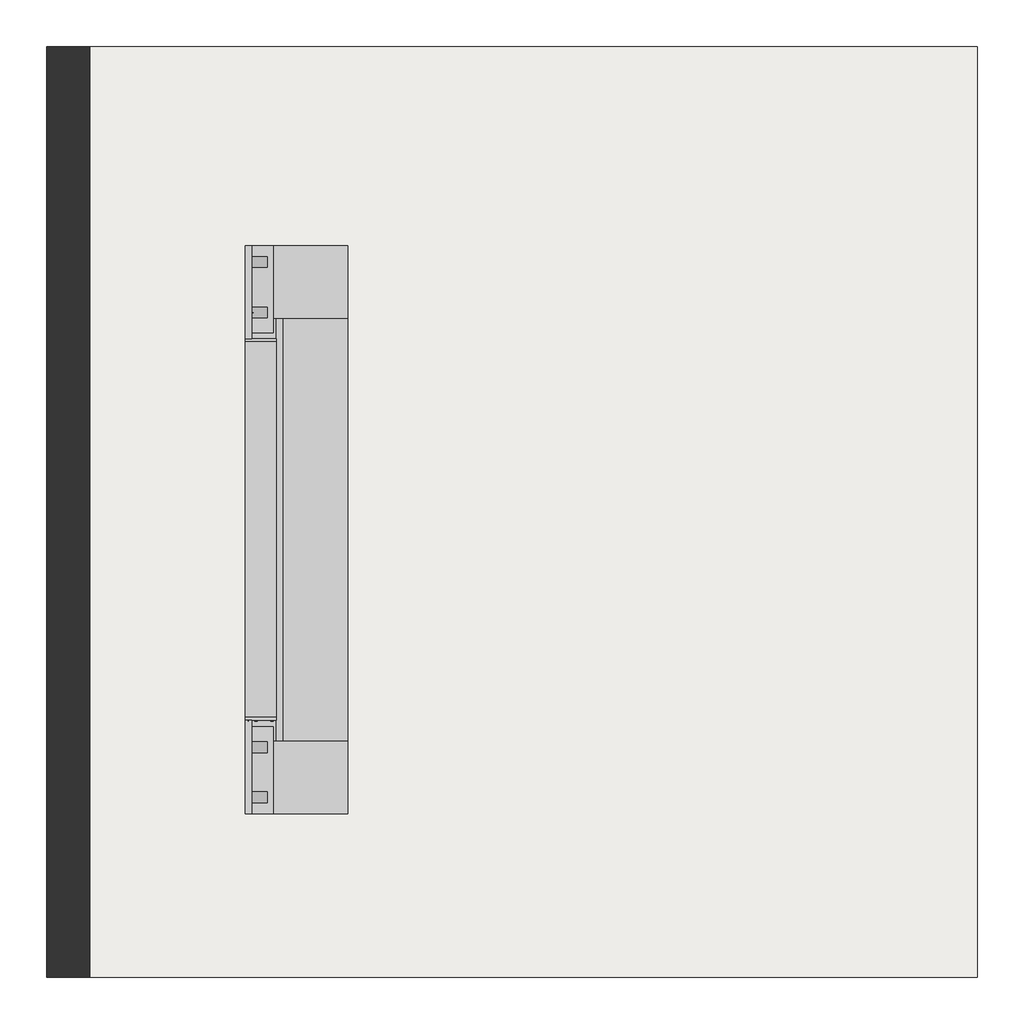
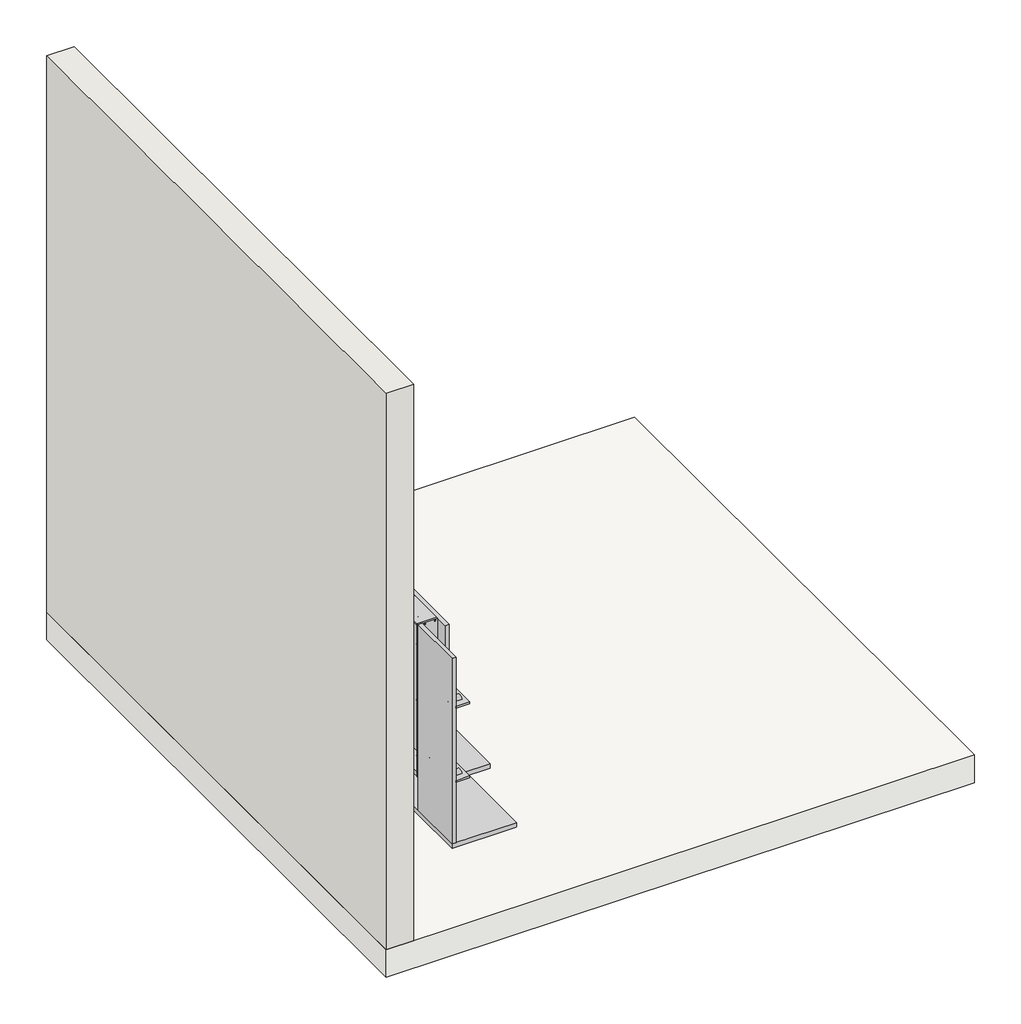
# One storey: 64 furniture elements, 1 slab, 1 wall.
"""IFC4 building model written with IfcOpenShell, lengths in millimetres."""

from ifc_helpers import new_model, si_unit, frame, origin, origin_with_axes, place, context, project, spatial, polyline, outline, extrude, transform, mapped, element, save
from components import furniture_a2fd005c, furniture_4c861502, furniture_2afee2cb, furniture_614d171c, furniture_25fd1c1d, furniture_03cabe77, furniture_2331d2df, furniture_8cdb3bce, furniture_fed28840, furniture_4a52a474, furniture_ae89cad7, furniture_c7928b1a, furniture_e5c32ea2, furniture_202a0ecc, furniture_795810f4, furniture_3a2688c3, furniture_bcf3ffac, furniture_26f772b4, furniture_c9f555ce, furniture_09c1f700

model = new_model("IFC4")

# Units and contexts
model_context = context("Model", 3, world=origin())
ifc_project = project(units=[si_unit("LENGTHUNIT", "METRE", prefix="MILLI")], contexts=[model_context])

# Site, building, storey
site = spatial("IfcSite", under=ifc_project)
building = spatial("IfcBuilding", under=site)
storey = spatial("IfcBuildingStorey", under=building, Name="Nível 1", Elevation=0.0)

# Furniture
placement = place(None, origin())
furniture_shape = furniture_a2fd005c(model_context)
element("IfcFurniture", 1, ObjectType="Apoio Lateral do Painel de TV : Apoio Lateral do Painel de TV", at=placement, inside=storey, context=model_context, shape_type="MappedRepresentation", body=[
    mapped(furniture_shape, transform((-4688.0330417, 160.8617628, 25.0), x_axis=(0.0, -1.0, 0.0), y_axis=(1.0, 0.0, 0.0), z_axis=(0.0, 0.0, 1.0))),
])
furniture_2_shape = furniture_4c861502(model_context)
element("IfcFurniture", 2, ObjectType="Base Inferior do Painel de TV : Base Inferior do Painel de TV", at=placement, inside=storey, context=model_context, shape_type="MappedRepresentation", body=[
    mapped(furniture_2_shape, transform((-4688.0330417, 1690.8617628, 0.0), x_axis=(0.0, -1.0, 0.0), y_axis=(1.0, 0.0, 0.0), z_axis=(0.0, 0.0, 1.0))),
])
furniture_3_shape = furniture_2afee2cb(model_context)
element("IfcFurniture", 3, ObjectType="Base Superior do Painel de TV : Base Superior do Painel de TV", at=placement, inside=storey, context=model_context, shape_type="MappedRepresentation", body=[
    mapped(furniture_3_shape, transform((-4358.0330417, 95.8617628, 175.0), x_axis=(0.0, 1.0, 0.0), y_axis=(-1.0, 0.0, 0.0), z_axis=(0.0, 0.0, 1.0))),
])
furniture_4_shape = furniture_614d171c(model_context)
element("IfcFurniture", 4, ObjectType="Divisoria Inferior do Painel de TV : Divisoria Inferior do Painel de TV", at=placement, inside=storey, context=model_context, shape_type="MappedRepresentation", body=[
    mapped(furniture_4_shape, transform((-4358.0330417, 765.8617628, 25.0), x_axis=(0.0, 1.0, 0.0), y_axis=(-1.0, 0.0, 0.0), z_axis=(0.0, 0.0, 1.0))),
])
furniture_5_shape = furniture_25fd1c1d(model_context)
element("IfcFurniture", 5, ObjectType="Fechamento Lateral do Painel de TV : Fechamento Lateral do Painel de TV", at=placement, inside=storey, context=model_context, shape_type="MappedRepresentation", body=[
    mapped(furniture_5_shape, transform((-4688.0330417, 1390.8617628, 200.0), x_axis=(0.0, -1.0, 0.0), y_axis=(1.0, 0.0, 0.0), z_axis=(0.0, 0.0, 1.0))),
])
furniture_6_shape = furniture_03cabe77(model_context)
element("IfcFurniture", 6, ObjectType="Fechamento Superior do Painel de TV : Fechamento Superior do Painel de TV", at=placement, inside=storey, context=model_context, shape_type="MappedRepresentation", body=[
    mapped(furniture_6_shape, transform((-4588.0330417, 170.8617628, 1025.0), x_axis=(0.0, 1.0, 0.0), y_axis=(-1.0, 0.0, 0.0), z_axis=(0.0, 0.0, 1.0))),
])
furniture_7_shape = furniture_2331d2df(model_context)
element("IfcFurniture", 7, ObjectType="Painel de Suporte da TV : Painel de Suporte da TV", at=placement, inside=storey, context=model_context, shape_type="MappedRepresentation", body=[
    mapped(furniture_7_shape, transform((-4588.0330417, 1455.8617628, 200.0), x_axis=(0.0, -1.0, 0.0), y_axis=(1.0, 0.0, 0.0), z_axis=(0.0, 0.0, 1.0))),
])
furniture_8_shape = furniture_8cdb3bce(model_context)
element("IfcFurniture", 8, ObjectType="Parafuso de Madeira 12mm x 3mm : Parafuso de Madeira 12mm x 3mm", at=placement, inside=storey, context=model_context, shape_type="MappedRepresentation", body=[
    mapped(furniture_8_shape, transform((-4678.0330417, 1637.9861422, 355.0), x_axis=(1.0, 0.0, 0.0), y_axis=(0.0, 1.0, 0.0), z_axis=(0.0, 0.0, 1.0))),
])
element("IfcFurniture", 9, ObjectType="Parafuso de Madeira 12mm x 3mm : Parafuso de Madeira 12mm x 3mm", at=placement, inside=storey, context=model_context, shape_type="MappedRepresentation", body=[
    mapped(furniture_8_shape, transform((-4678.0330417, 1475.8748415, 355.0), x_axis=(1.0, 0.0, 0.0), y_axis=(0.0, 1.0, 0.0), z_axis=(0.0, 0.0, 1.0))),
])
element("IfcFurniture", 10, ObjectType="Parafuso de Madeira 12mm x 3mm : Parafuso de Madeira 12mm x 3mm", at=placement, inside=storey, context=model_context, shape_type="MappedRepresentation", body=[
    mapped(furniture_8_shape, transform((-4678.0330417, 1637.9861422, 755.0), x_axis=(1.0, 0.0, 0.0), y_axis=(0.0, 1.0, 0.0), z_axis=(0.0, 0.0, 1.0))),
])
element("IfcFurniture", 11, ObjectType="Parafuso de Madeira 12mm x 3mm : Parafuso de Madeira 12mm x 3mm", at=placement, inside=storey, context=model_context, shape_type="MappedRepresentation", body=[
    mapped(furniture_8_shape, transform((-4678.0330417, 1475.8748415, 755.0), x_axis=(1.0, 0.0, 0.0), y_axis=(0.0, 1.0, 0.0), z_axis=(0.0, 0.0, 1.0))),
])
furniture_9_shape = furniture_fed28840(model_context)
element("IfcFurniture", 12, ObjectType="Parafuso de Madeira 30mm x 3mm : Parafuso de Madeira 30mm x 3mm", at=placement, inside=storey, context=model_context, shape_type="MappedRepresentation", body=[
    mapped(furniture_9_shape, transform((-4678.0330417, 190.8617628, 600.0), x_axis=(0.0, -1.0, 0.0), y_axis=(1.0, 0.0, 0.0), z_axis=(0.0, 0.0, 1.0))),
])
element("IfcFurniture", 13, ObjectType="Parafuso de Madeira 30mm x 3mm : Parafuso de Madeira 30mm x 3mm", at=placement, inside=storey, context=model_context, shape_type="MappedRepresentation", body=[
    mapped(furniture_9_shape, transform((-4678.0330417, 190.8617628, 300.0), x_axis=(0.0, -1.0, 0.0), y_axis=(1.0, 0.0, 0.0), z_axis=(0.0, 0.0, 1.0))),
])
element("IfcFurniture", 14, ObjectType="Parafuso de Madeira 30mm x 3mm : Parafuso de Madeira 30mm x 3mm", at=placement, inside=storey, context=model_context, shape_type="MappedRepresentation", body=[
    mapped(furniture_9_shape, transform((-4678.0330417, 1360.8617628, 600.0), x_axis=(0.0, 1.0, 0.0), y_axis=(-1.0, 0.0, 0.0), z_axis=(0.0, 0.0, 1.0))),
])
element("IfcFurniture", 15, ObjectType="Parafuso de Madeira 30mm x 3mm : Parafuso de Madeira 30mm x 3mm", at=placement, inside=storey, context=model_context, shape_type="MappedRepresentation", body=[
    mapped(furniture_9_shape, transform((-4678.0330417, 1360.8617628, 300.0), x_axis=(0.0, 1.0, 0.0), y_axis=(-1.0, 0.0, 0.0), z_axis=(0.0, 0.0, 1.0))),
])
element("IfcFurniture", 16, ObjectType="Parafuso de Madeira 30mm x 3mm : Parafuso de Madeira 30mm x 3mm", at=placement, inside=storey, context=model_context, shape_type="MappedRepresentation", body=[
    mapped(furniture_9_shape, transform((-4678.0330417, 190.8617628, 900.0), x_axis=(0.0, -1.0, 0.0), y_axis=(1.0, 0.0, 0.0), z_axis=(0.0, 0.0, 1.0))),
])
element("IfcFurniture", 17, ObjectType="Parafuso de Madeira 30mm x 3mm : Parafuso de Madeira 30mm x 3mm", at=placement, inside=storey, context=model_context, shape_type="MappedRepresentation", body=[
    mapped(furniture_9_shape, transform((-4678.0330417, 1360.8617628, 900.0), x_axis=(0.0, 1.0, 0.0), y_axis=(-1.0, 0.0, 0.0), z_axis=(0.0, 0.0, 1.0))),
])
furniture_10_shape = furniture_4a52a474(model_context)
element("IfcFurniture", 18, ObjectType="Prateleira de Vidro 10mm : Prateleira de Vidro", at=placement, inside=storey, context=model_context, shape_type="MappedRepresentation", body=[
    mapped(furniture_10_shape, transform((-4668.0330417, 140.8617628, 350.0), x_axis=(0.0, -1.0, 0.0), y_axis=(1.0, 0.0, 0.0), z_axis=(0.0, 0.0, 1.0))),
])
element("IfcFurniture", 19, ObjectType="Prateleira de Vidro 10mm : Prateleira de Vidro", at=placement, inside=storey, context=model_context, shape_type="MappedRepresentation", body=[
    mapped(furniture_10_shape, transform((-4668.0330417, 140.8617628, 750.0), x_axis=(0.0, -1.0, 0.0), y_axis=(1.0, 0.0, 0.0), z_axis=(0.0, 0.0, 1.0))),
])
furniture_11_shape = furniture_ae89cad7(model_context)
element("IfcFurniture", 20, ObjectType="Suporte Prateleira de Vidro : Suporte Prateleira de Vidro", at=placement, inside=storey, context=model_context, shape_type="MappedRepresentation", body=[
    mapped(furniture_11_shape, transform((-4668.0330417, -66.249538, 350.0), x_axis=(0.0, -1.0, 0.0), y_axis=(1.0, 0.0, 0.0), z_axis=(0.0, 0.0, 1.0))),
])
element("IfcFurniture", 21, ObjectType="Suporte Prateleira de Vidro : Suporte Prateleira de Vidro", at=placement, inside=storey, context=model_context, shape_type="MappedRepresentation", body=[
    mapped(furniture_11_shape, transform((-4668.0330417, 95.8617628, 350.0), x_axis=(0.0, -1.0, 0.0), y_axis=(1.0, 0.0, 0.0), z_axis=(0.0, 0.0, 1.0))),
])
element("IfcFurniture", 22, ObjectType="Suporte Prateleira de Vidro : Suporte Prateleira de Vidro", at=placement, inside=storey, context=model_context, shape_type="MappedRepresentation", body=[
    mapped(furniture_11_shape, transform((-4668.0330417, -66.249538, 750.0), x_axis=(0.0, -1.0, 0.0), y_axis=(1.0, 0.0, 0.0), z_axis=(0.0, 0.0, 1.0))),
])
element("IfcFurniture", 23, ObjectType="Suporte Prateleira de Vidro : Suporte Prateleira de Vidro", at=placement, inside=storey, context=model_context, shape_type="MappedRepresentation", body=[
    mapped(furniture_11_shape, transform((-4668.0330417, 95.8617628, 750.0), x_axis=(0.0, -1.0, 0.0), y_axis=(1.0, 0.0, 0.0), z_axis=(0.0, 0.0, 1.0))),
])
furniture_12_shape = furniture_c7928b1a(model_context)
element("IfcFurniture", 24, ObjectType="Tampo Inferior do Painel de TV : Tampo Inferior do Painel de TV", at=placement, inside=storey, context=model_context, shape_type="MappedRepresentation", body=[
    mapped(furniture_12_shape, transform((-4648.0330417, 475.8617628, 25.0), x_axis=(0.0, 1.0, 0.0), y_axis=(-1.0, 0.0, 0.0), z_axis=(0.0, 0.0, 1.0))),
])
furniture_13_shape = furniture_e5c32ea2(model_context)
element("IfcFurniture", 25, ObjectType="Suporte Prateleira de Vidro : Suporte Prateleira de Vidro", at=placement, inside=storey, context=model_context, shape_type="MappedRepresentation", body=[
    mapped(furniture_13_shape, transform((-4668.0330417, 1617.9730635, 350.0), x_axis=(0.0, 1.0, 0.0), y_axis=(-1.0, 0.0, 0.0), z_axis=(0.0, 0.0, 1.0))),
])
element("IfcFurniture", 26, ObjectType="Suporte Prateleira de Vidro : Suporte Prateleira de Vidro", at=placement, inside=storey, context=model_context, shape_type="MappedRepresentation", body=[
    mapped(furniture_13_shape, transform((-4668.0330417, 1455.8617628, 350.0), x_axis=(0.0, 1.0, 0.0), y_axis=(-1.0, 0.0, 0.0), z_axis=(0.0, 0.0, 1.0))),
])
element("IfcFurniture", 27, ObjectType="Suporte Prateleira de Vidro : Suporte Prateleira de Vidro", at=placement, inside=storey, context=model_context, shape_type="MappedRepresentation", body=[
    mapped(furniture_13_shape, transform((-4668.0330417, 1617.9730635, 750.0), x_axis=(0.0, 1.0, 0.0), y_axis=(-1.0, 0.0, 0.0), z_axis=(0.0, 0.0, 1.0))),
])
element("IfcFurniture", 28, ObjectType="Suporte Prateleira de Vidro : Suporte Prateleira de Vidro", at=placement, inside=storey, context=model_context, shape_type="MappedRepresentation", body=[
    mapped(furniture_13_shape, transform((-4668.0330417, 1455.8617628, 750.0), x_axis=(0.0, 1.0, 0.0), y_axis=(-1.0, 0.0, 0.0), z_axis=(0.0, 0.0, 1.0))),
])
furniture_14_shape = furniture_202a0ecc(model_context)
element("IfcFurniture", 29, ObjectType="Parafuso de Madeira 12mm x 3mm : Parafuso de Madeira 12mm x 3mm", at=placement, inside=storey, context=model_context, shape_type="MappedRepresentation", body=[
    mapped(furniture_14_shape, transform((-4678.0330417, -86.2626167, 355.0), x_axis=(1.0, 0.0, 0.0), y_axis=(0.0, 1.0, 0.0), z_axis=(0.0, 0.0, 1.0))),
])
element("IfcFurniture", 30, ObjectType="Parafuso de Madeira 12mm x 3mm : Parafuso de Madeira 12mm x 3mm", at=placement, inside=storey, context=model_context, shape_type="MappedRepresentation", body=[
    mapped(furniture_14_shape, transform((-4678.0330417, 75.848684, 355.0), x_axis=(1.0, 0.0, 0.0), y_axis=(0.0, 1.0, 0.0), z_axis=(0.0, 0.0, 1.0))),
])
element("IfcFurniture", 31, ObjectType="Parafuso de Madeira 12mm x 3mm : Parafuso de Madeira 12mm x 3mm", at=placement, inside=storey, context=model_context, shape_type="MappedRepresentation", body=[
    mapped(furniture_14_shape, transform((-4678.0330417, -86.2626167, 755.0), x_axis=(1.0, 0.0, 0.0), y_axis=(0.0, 1.0, 0.0), z_axis=(0.0, 0.0, 1.0))),
])
element("IfcFurniture", 32, ObjectType="Parafuso de Madeira 12mm x 3mm : Parafuso de Madeira 12mm x 3mm", at=placement, inside=storey, context=model_context, shape_type="MappedRepresentation", body=[
    mapped(furniture_14_shape, transform((-4678.0330417, 75.848684, 755.0), x_axis=(1.0, 0.0, 0.0), y_axis=(0.0, 1.0, 0.0), z_axis=(0.0, 0.0, 1.0))),
])
furniture_15_shape = furniture_795810f4(model_context)
element("IfcFurniture", 33, ObjectType="Parafuso de Madeira 60mm x 3mm : Parafuso de Madeira 60mm x 3mm", at=placement, inside=storey, context=model_context, shape_type="MappedRepresentation", body=[
    mapped(furniture_15_shape, transform((-4368.5500171, 775.8617628, 0.0), x_axis=(1.0, 0.0, 0.0), y_axis=(0.0, 1.0, 0.0), z_axis=(0.0, 0.0, 1.0))),
])
element("IfcFurniture", 34, ObjectType="Parafuso de Madeira 60mm x 3mm : Parafuso de Madeira 60mm x 3mm", at=placement, inside=storey, context=model_context, shape_type="MappedRepresentation", body=[
    mapped(furniture_15_shape, transform((-4578.0330417, 1442.389608, 172.0), x_axis=(1.0, 0.0, 0.0), y_axis=(0.0, 1.0, 0.0), z_axis=(0.0, 0.0, 1.0))),
])
element("IfcFurniture", 35, ObjectType="Parafuso de Madeira 60mm x 3mm : Parafuso de Madeira 60mm x 3mm", at=placement, inside=storey, context=model_context, shape_type="MappedRepresentation", body=[
    mapped(furniture_15_shape, transform((-4658.0330417, 1019.3360446, 0.0), x_axis=(1.0, 0.0, 0.0), y_axis=(0.0, 1.0, 0.0), z_axis=(0.0, 0.0, 1.0))),
])
element("IfcFurniture", 36, ObjectType="Parafuso de Madeira 60mm x 3mm : Parafuso de Madeira 60mm x 3mm", at=placement, inside=storey, context=model_context, shape_type="MappedRepresentation", body=[
    mapped(furniture_15_shape, transform((-4678.0330417, 1667.099379, 0.0), x_axis=(1.0, 0.0, 0.0), y_axis=(0.0, 1.0, 0.0), z_axis=(0.0, 0.0, 1.0))),
])
element("IfcFurniture", 37, ObjectType="Parafuso de Madeira 60mm x 3mm : Parafuso de Madeira 60mm x 3mm", at=placement, inside=storey, context=model_context, shape_type="MappedRepresentation", body=[
    mapped(furniture_15_shape, transform((-4678.0330417, 1486.099379, 0.0), x_axis=(1.0, 0.0, 0.0), y_axis=(0.0, 1.0, 0.0), z_axis=(0.0, 0.0, 1.0))),
])
element("IfcFurniture", 38, ObjectType="Parafuso de Madeira 60mm x 3mm : Parafuso de Madeira 60mm x 3mm", at=placement, inside=storey, context=model_context, shape_type="MappedRepresentation", body=[
    mapped(furniture_15_shape, transform((-4678.0330417, 1583.099379, 0.0), x_axis=(1.0, 0.0, 0.0), y_axis=(0.0, 1.0, 0.0), z_axis=(0.0, 0.0, 1.0))),
])
element("IfcFurniture", 39, ObjectType="Parafuso de Madeira 60mm x 3mm : Parafuso de Madeira 60mm x 3mm", at=placement, inside=storey, context=model_context, shape_type="MappedRepresentation", body=[
    mapped(furniture_15_shape, transform((-4578.0330417, 1347.389608, 172.0), x_axis=(1.0, 0.0, 0.0), y_axis=(0.0, 1.0, 0.0), z_axis=(0.0, 0.0, 1.0))),
])
element("IfcFurniture", 40, ObjectType="Parafuso de Madeira 60mm x 3mm : Parafuso de Madeira 60mm x 3mm", at=placement, inside=storey, context=model_context, shape_type="MappedRepresentation", body=[
    mapped(furniture_15_shape, transform((-4578.0330417, 1238.389608, 172.0), x_axis=(1.0, 0.0, 0.0), y_axis=(0.0, 1.0, 0.0), z_axis=(0.0, 0.0, 1.0))),
])
element("IfcFurniture", 41, ObjectType="Parafuso de Madeira 60mm x 3mm : Parafuso de Madeira 60mm x 3mm", at=placement, inside=storey, context=model_context, shape_type="MappedRepresentation", body=[
    mapped(furniture_15_shape, transform((-4578.0330417, 1115.8617628, 172.0), x_axis=(1.0, 0.0, 0.0), y_axis=(0.0, 1.0, 0.0), z_axis=(0.0, 0.0, 1.0))),
])
element("IfcFurniture", 42, ObjectType="Parafuso de Madeira 60mm x 3mm : Parafuso de Madeira 60mm x 3mm", at=placement, inside=storey, context=model_context, shape_type="MappedRepresentation", body=[
    mapped(furniture_15_shape, transform((-4578.0330417, 1020.8617628, 172.0), x_axis=(1.0, 0.0, 0.0), y_axis=(0.0, 1.0, 0.0), z_axis=(0.0, 0.0, 1.0))),
])
element("IfcFurniture", 43, ObjectType="Parafuso de Madeira 60mm x 3mm : Parafuso de Madeira 60mm x 3mm", at=placement, inside=storey, context=model_context, shape_type="MappedRepresentation", body=[
    mapped(furniture_15_shape, transform((-4578.0330417, 893.8617628, 172.0), x_axis=(1.0, 0.0, 0.0), y_axis=(0.0, 1.0, 0.0), z_axis=(0.0, 0.0, 1.0))),
])
element("IfcFurniture", 44, ObjectType="Parafuso de Madeira 60mm x 3mm : Parafuso de Madeira 60mm x 3mm", at=placement, inside=storey, context=model_context, shape_type="MappedRepresentation", body=[
    mapped(furniture_15_shape, transform((-4470.5500171, 775.8617628, 0.0), x_axis=(1.0, 0.0, 0.0), y_axis=(0.0, 1.0, 0.0), z_axis=(0.0, 0.0, 1.0))),
])
element("IfcFurniture", 45, ObjectType="Parafuso de Madeira 60mm x 3mm : Parafuso de Madeira 60mm x 3mm", at=placement, inside=storey, context=model_context, shape_type="MappedRepresentation", body=[
    mapped(furniture_15_shape, transform((-4577.5500171, 775.8617628, 0.0), x_axis=(1.0, 0.0, 0.0), y_axis=(0.0, 1.0, 0.0), z_axis=(0.0, 0.0, 1.0))),
])
element("IfcFurniture", 46, ObjectType="Parafuso de Madeira 60mm x 3mm : Parafuso de Madeira 60mm x 3mm", at=placement, inside=storey, context=model_context, shape_type="MappedRepresentation", body=[
    mapped(furniture_15_shape, transform((-4656.5500171, 775.8617628, 0.0), x_axis=(1.0, 0.0, 0.0), y_axis=(0.0, 1.0, 0.0), z_axis=(0.0, 0.0, 1.0))),
])
furniture_16_shape = furniture_3a2688c3(model_context)
element("IfcFurniture", 47, ObjectType="Parafuso de Madeira 60mm x 3mm : Parafuso de Madeira 60mm x 3mm", at=placement, inside=storey, context=model_context, shape_type="MappedRepresentation", body=[
    mapped(furniture_16_shape, transform((-4654.0750577, 157.8702492, 1020.0), x_axis=(-1.0, 0.0, 0.0), y_axis=(0.0, -1.0, 0.0), z_axis=(0.0, 0.0, 1.0))),
])
element("IfcFurniture", 48, ObjectType="Parafuso de Madeira 60mm x 3mm : Parafuso de Madeira 60mm x 3mm", at=placement, inside=storey, context=model_context, shape_type="MappedRepresentation", body=[
    mapped(furniture_16_shape, transform((-4602.5802289, 157.8702492, 1020.0), x_axis=(-1.0, 0.0, 0.0), y_axis=(0.0, -1.0, 0.0), z_axis=(0.0, 0.0, 1.0))),
])
element("IfcFurniture", 49, ObjectType="Parafuso de Madeira 60mm x 3mm : Parafuso de Madeira 60mm x 3mm", at=placement, inside=storey, context=model_context, shape_type="MappedRepresentation", body=[
    mapped(furniture_16_shape, transform((-4655.1750087, 1383.8536367, 1020.0), x_axis=(1.0, 0.0, 0.0), y_axis=(0.0, 1.0, 0.0), z_axis=(0.0, 0.0, 1.0))),
])
element("IfcFurniture", 50, ObjectType="Parafuso de Madeira 60mm x 3mm : Parafuso de Madeira 60mm x 3mm", at=placement, inside=storey, context=model_context, shape_type="MappedRepresentation", body=[
    mapped(furniture_16_shape, transform((-4602.787206, 1383.8536367, 1020.0), x_axis=(1.0, 0.0, 0.0), y_axis=(0.0, 1.0, 0.0), z_axis=(0.0, 0.0, 1.0))),
])
furniture_17_shape = furniture_bcf3ffac(model_context)
element("IfcFurniture", 51, ObjectType="Parafuso de Madeira 60mm x 3mm : Parafuso de Madeira 60mm x 3mm", at=placement, inside=storey, context=model_context, shape_type="MappedRepresentation", body=[
    mapped(furniture_17_shape, transform((-4578.0330417, 109.3339175, 172.0), x_axis=(1.0, 0.0, 0.0), y_axis=(0.0, 1.0, 0.0), z_axis=(0.0, 0.0, 1.0))),
])
element("IfcFurniture", 52, ObjectType="Parafuso de Madeira 60mm x 3mm : Parafuso de Madeira 60mm x 3mm", at=placement, inside=storey, context=model_context, shape_type="MappedRepresentation", body=[
    mapped(furniture_17_shape, transform((-4578.0330417, 204.3339175, 172.0), x_axis=(1.0, 0.0, 0.0), y_axis=(0.0, 1.0, 0.0), z_axis=(0.0, 0.0, 1.0))),
])
element("IfcFurniture", 53, ObjectType="Parafuso de Madeira 60mm x 3mm : Parafuso de Madeira 60mm x 3mm", at=placement, inside=storey, context=model_context, shape_type="MappedRepresentation", body=[
    mapped(furniture_17_shape, transform((-4578.0330417, 313.3339175, 172.0), x_axis=(1.0, 0.0, 0.0), y_axis=(0.0, 1.0, 0.0), z_axis=(0.0, 0.0, 1.0))),
])
element("IfcFurniture", 54, ObjectType="Parafuso de Madeira 60mm x 3mm : Parafuso de Madeira 60mm x 3mm", at=placement, inside=storey, context=model_context, shape_type="MappedRepresentation", body=[
    mapped(furniture_17_shape, transform((-4578.0330417, 435.8617628, 172.0), x_axis=(1.0, 0.0, 0.0), y_axis=(0.0, 1.0, 0.0), z_axis=(0.0, 0.0, 1.0))),
])
element("IfcFurniture", 55, ObjectType="Parafuso de Madeira 60mm x 3mm : Parafuso de Madeira 60mm x 3mm", at=placement, inside=storey, context=model_context, shape_type="MappedRepresentation", body=[
    mapped(furniture_17_shape, transform((-4578.0330417, 530.8617628, 172.0), x_axis=(1.0, 0.0, 0.0), y_axis=(0.0, 1.0, 0.0), z_axis=(0.0, 0.0, 1.0))),
])
element("IfcFurniture", 56, ObjectType="Parafuso de Madeira 60mm x 3mm : Parafuso de Madeira 60mm x 3mm", at=placement, inside=storey, context=model_context, shape_type="MappedRepresentation", body=[
    mapped(furniture_17_shape, transform((-4578.0330417, 657.8617628, 172.0), x_axis=(1.0, 0.0, 0.0), y_axis=(0.0, 1.0, 0.0), z_axis=(0.0, 0.0, 1.0))),
])
element("IfcFurniture", 57, ObjectType="Parafuso de Madeira 60mm x 3mm : Parafuso de Madeira 60mm x 3mm", at=placement, inside=storey, context=model_context, shape_type="MappedRepresentation", body=[
    mapped(furniture_17_shape, transform((-4678.0330417, -115.3758534, 0.0), x_axis=(1.0, 0.0, 0.0), y_axis=(0.0, 1.0, 0.0), z_axis=(0.0, 0.0, 1.0))),
])
element("IfcFurniture", 58, ObjectType="Parafuso de Madeira 60mm x 3mm : Parafuso de Madeira 60mm x 3mm", at=placement, inside=storey, context=model_context, shape_type="MappedRepresentation", body=[
    mapped(furniture_17_shape, transform((-4678.0330417, 65.6241466, 0.0), x_axis=(1.0, 0.0, 0.0), y_axis=(0.0, 1.0, 0.0), z_axis=(0.0, 0.0, 1.0))),
])
element("IfcFurniture", 59, ObjectType="Parafuso de Madeira 60mm x 3mm : Parafuso de Madeira 60mm x 3mm", at=placement, inside=storey, context=model_context, shape_type="MappedRepresentation", body=[
    mapped(furniture_17_shape, transform((-4678.0330417, -31.3758534, 0.0), x_axis=(1.0, 0.0, 0.0), y_axis=(0.0, 1.0, 0.0), z_axis=(0.0, 0.0, 1.0))),
])
element("IfcFurniture", 60, ObjectType="Parafuso de Madeira 60mm x 3mm : Parafuso de Madeira 60mm x 3mm", at=placement, inside=storey, context=model_context, shape_type="MappedRepresentation", body=[
    mapped(furniture_17_shape, transform((-4658.0330417, 532.3874809, 0.0), x_axis=(1.0, 0.0, 0.0), y_axis=(0.0, 1.0, 0.0), z_axis=(0.0, 0.0, 1.0))),
])
furniture_18_shape = furniture_26f772b4(model_context)
element("IfcFurniture", 61, ObjectType="Apoio Lateral do Painel de TV : Apoio Lateral do Painel de TV", at=placement, inside=storey, context=model_context, shape_type="MappedRepresentation", body=[
    mapped(furniture_18_shape, transform((-4688.0330417, 1390.8617628, 25.0), x_axis=(0.0, 1.0, 0.0), y_axis=(-1.0, 0.0, 0.0), z_axis=(0.0, 0.0, 1.0))),
])
furniture_19_shape = furniture_c9f555ce(model_context)
element("IfcFurniture", 62, ObjectType="Fechamento Lateral do Painel de TV : Fechamento Lateral do Painel de TV", at=placement, inside=storey, context=model_context, shape_type="MappedRepresentation", body=[
    mapped(furniture_19_shape, transform((-4688.0330417, 160.8617628, 200.0), x_axis=(0.0, 1.0, 0.0), y_axis=(-1.0, 0.0, 0.0), z_axis=(0.0, 0.0, 1.0))),
])
furniture_20_shape = furniture_09c1f700(model_context)
element("IfcFurniture", 63, ObjectType="Prateleira de Vidro 10mm : Prateleira de Vidro", at=placement, inside=storey, context=model_context, shape_type="MappedRepresentation", body=[
    mapped(furniture_20_shape, transform((-4668.0330417, 1410.8617628, 350.0), x_axis=(0.0, 1.0, 0.0), y_axis=(-1.0, 0.0, 0.0), z_axis=(0.0, 0.0, 1.0))),
])
element("IfcFurniture", 64, ObjectType="Prateleira de Vidro 10mm : Prateleira de Vidro", at=placement, inside=storey, context=model_context, shape_type="MappedRepresentation", body=[
    mapped(furniture_20_shape, transform((-4668.0330417, 1410.8617628, 750.0), x_axis=(0.0, 1.0, 0.0), y_axis=(-1.0, 0.0, 0.0), z_axis=(0.0, 0.0, 1.0))),
])

# Slab
element("IfcSlab", 65, ObjectType="Genérico 150 mm", at=placement, inside=storey, context=model_context, shape_type="SweptSolid", body=[
    extrude(outline(polyline([(-2329.0330417, 2332.8617628), (-2329.0330417, -667.1382372), (-5329.0330417, -667.1382372), (-5329.0330417, 2332.8617628), (-2329.0330417, 2332.8617628)])), frame((0.0, 0.0, -150.0), z_axis=(0.0, 0.0, 1.0), x_axis=(1.0, 0.0, 0.0)), (0.0, 0.0, 1.0), 150.0),
])

# Wall
element("IfcWall", 66, ObjectType="Genérico - 140 mm Alvenaria", at=placement, inside=storey, context=model_context, shape_type="SweptSolid", body=[
    extrude(outline(polyline([(-5189.0330417, 2332.8617628), (-5189.0330417, -667.1382372), (-5329.0330417, -667.1382372), (-5329.0330417, 2332.8617628), (-5189.0330417, 2332.8617628)])), origin_with_axes(), (0.0, 0.0, 1.0), 3000.0),
])

save(model, "model.ifc")
